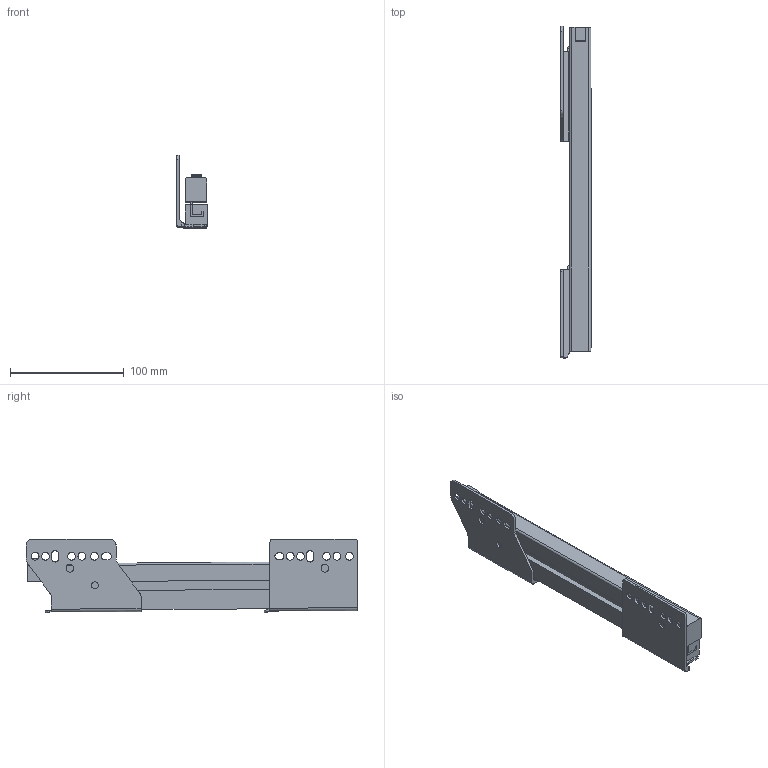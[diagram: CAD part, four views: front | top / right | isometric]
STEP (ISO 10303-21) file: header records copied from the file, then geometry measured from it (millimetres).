
FILE_DESCRIPTION (( 'STEP AP214' ), '1' );
FILE_NAME ('_IMOS_NOVA-Pro_KS_P904_LI_NL300_EB29.step', '2010-07-06T07:17:37', ( 'grass' ), ( '' ), 'SwSTEP 2.0', 'SolidWorks 2009', '' );
FILE_SCHEMA (( 'AUTOMOTIVE_DESIGN' ));
Length unit declared in the file: millimetre
Products named in the file (1): _IMOS_NOVA-Pro_KS_P904_LI_NL300_EB29
Bounding box: 26.75 x 291.5 x 64.46 mm (x, y, z)
Volume: 217775.4 mm3; surface area: 94017.6 mm2
Topology: 6 solids, 6 shells, 144 faces, 392 edges, 260 vertices
Faces by surface type: plane 89, cylinder 55
Entity records: 4691 total; most frequent: CARTESIAN_POINT 848, ORIENTED_EDGE 784, DIRECTION 765, EDGE_CURVE 392, LINE 275, VECTOR 275, VERTEX_POINT 260, AXIS2_PLACEMENT_3D 245
